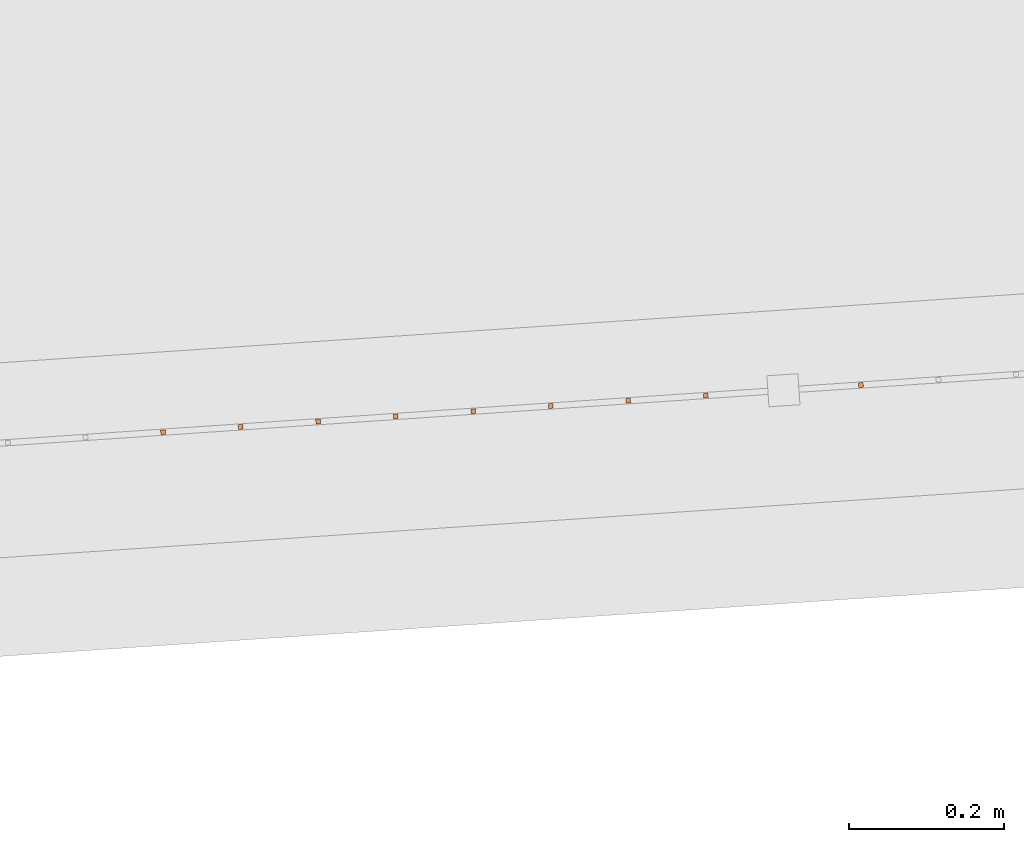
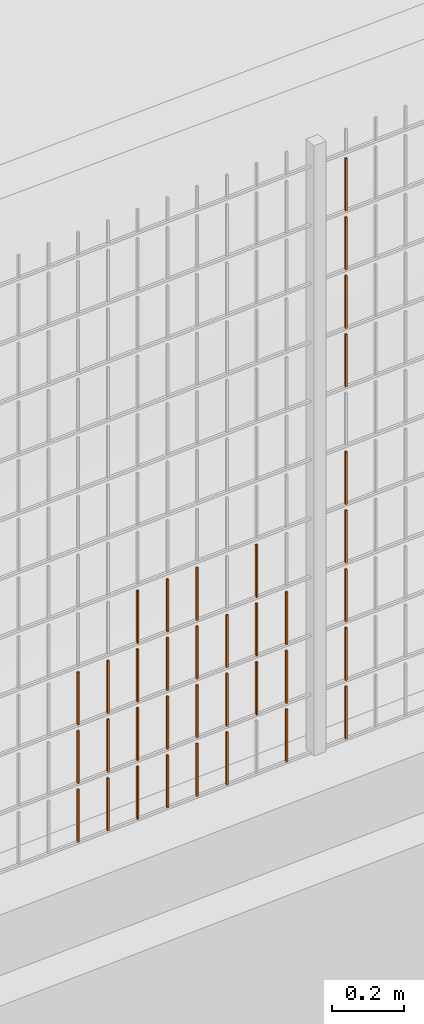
# One storey, part 377 of 1809: 36 proxies, 1 element without a shape of its own.
"""IFC2X3 building model written with IfcOpenShell, lengths in millimetres."""

from ifc_helpers import new_model, entity, si_unit, converted_unit, derived_unit, money_unit, direction, frame, origin_with_axes, place, context, subcontext, project, spatial, faceted_brep, source, transform, mapped, material, type_object, element, aggregate, save


model = new_model("IFC2X3")

# Units and contexts
model_context = context("Model", 3, precision=0.01, world=origin_with_axes(), true_north=direction((0.0, 1.0)))
body_context = subcontext(model_context, "Body", "Model", "MODEL_VIEW")
ifc_project = project(units=[si_unit("LENGTHUNIT", "METRE", prefix="MILLI"), si_unit("AREAUNIT", "SQUARE_METRE"), si_unit("VOLUMEUNIT", "CUBIC_METRE"), converted_unit("PLANEANGLEUNIT", "DEGREE", entity("IfcPlaneAngleMeasure", 0.0174532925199), si_unit("PLANEANGLEUNIT", "RADIAN"), dimensions=[0, 0, 0, 0, 0, 0, 0]), si_unit("SOLIDANGLEUNIT", "STERADIAN"), money_unit("EUR"), converted_unit("TIMEUNIT", "Year", entity("IfcTimeMeasure", 31556926.0), si_unit("TIMEUNIT", "SECOND"), dimensions=[0, 0, 1, 0, 0, 0, 0]), si_unit("MASSUNIT", "GRAM", prefix="KILO"), si_unit("THERMODYNAMICTEMPERATUREUNIT", "DEGREE_CELSIUS"), si_unit("LUMINOUSINTENSITYUNIT", "LUMEN"), si_unit("ENERGYUNIT", "JOULE", prefix="MEGA"), derived_unit("THERMALCONDUCTANCEUNIT", [(si_unit("POWERUNIT", "WATT"), 1), (si_unit("LENGTHUNIT", "METRE"), -1), (si_unit("THERMODYNAMICTEMPERATUREUNIT", "KELVIN"), -1)]), derived_unit("SPECIFICHEATCAPACITYUNIT", [(si_unit("ENERGYUNIT", "JOULE"), 1), (si_unit("MASSUNIT", "GRAM", prefix="KILO"), -1), (si_unit("THERMODYNAMICTEMPERATUREUNIT", "KELVIN"), -1)]), derived_unit("MASSDENSITYUNIT", [(si_unit("MASSUNIT", "GRAM", prefix="KILO"), 1), (si_unit("VOLUMEUNIT", "CUBIC_METRE"), -1)])], contexts=[model_context])

# Site, building, storey
site_placement = place(None, origin_with_axes())
site = spatial("IfcSite", under=ifc_project, at=site_placement, Name="Politse- ja Piirivalveameti ning Päästeameti ühishoone", CompositionType="ELEMENT")
building_placement = place(site_placement, origin_with_axes())
building = spatial("IfcBuilding", under=site, at=building_placement, Name="Politse- ja Piirivalveameti ning Päästeameti ühishoone", CompositionType="ELEMENT")
storey_placement = place(building_placement, origin_with_axes())
storey = spatial("IfcBuildingStorey", under=building, at=storey_placement, Name="Esimene korrus", CompositionType="ELEMENT", Elevation=0.0)

# Proxies
building_element_proxy_type_1 = type_object("IfcBuildingElementProxyType", Name="Railing Type", PredefinedType="NOTDEFINED")
proxy_1_placement = place(storey_placement, frame((89252.001212, -29183.4766571, 203.661247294), z_axis=(0.0, 0.0, 1.0), x_axis=(1.0, 0.0, 0.0)))
proxy_1 = element("IfcBuildingElementProxy", 1, at=proxy_1_placement, inside=storey, type_object=building_element_proxy_type_1, Name="PIIRDEAED")
ifc_material = material(Name="ET-03_Raud")
building_element_proxy_type_2 = type_object("IfcBuildingElementProxyType", Name="IfcBuildingElementProxy", PredefinedType="NOTDEFINED")
shared_shape_1 = source(origin_with_axes(), body_context, "Body", "Brep", [
    faceted_brep([(3.0, 3.0, -0.000752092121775), (-3.0, 3.0, -0.000752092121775), (-3.0, 3.0, 179.99926046), (3.0, 3.0, 179.99926046), (3.0, -3.0, 0.000752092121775), (-3.0, -3.0, 0.000752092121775), (-3.0, -3.0, 180.000764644), (3.0, -3.0, 180.000764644)], [[[0, 1, 2, 3]], [[0, 4, 5, 1]], [[1, 5, 6, 2]], [[3, 2, 6, 7]], [[4, 0, 3, 7]], [[5, 4, 7, 6]]]),
])
proxy_2_placement = place(proxy_1_placement, frame((-17786.1595333, -18499.1627155, 22.7652816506), z_axis=(0.0, 0.0, 1.0), x_axis=(1.0, 0.0, 0.0)))
proxy_2 = element("IfcBuildingElementProxy", 2, at=proxy_2_placement, type_object=building_element_proxy_type_2, material=ifc_material, Name="BALUSTER - 001", context=body_context, shape_type="MappedRepresentation", body=[
    mapped(shared_shape_1, transform((0.0, 0.0, 0.0), x_axis=(-0.0673926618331, 0.997726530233, 0.0), y_axis=(-0.997726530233, -0.0673926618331, 0.0), z_axis=(0.0, 0.0, 1.0))),
])
shared_shape_2 = source(origin_with_axes(), body_context, "Body", "Brep", [
    faceted_brep([(3.0, 3.0, -0.000752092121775), (-3.0, 3.0, -0.000752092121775), (-3.0, 3.0, 179.99926046), (3.0, 3.0, 179.99926046), (3.0, -3.0, 0.000752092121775), (-3.0, -3.0, 0.000752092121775), (-3.0, -3.0, 180.000764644), (3.0, -3.0, 180.000764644)], [[[0, 1, 2, 3]], [[0, 4, 5, 1]], [[1, 5, 6, 2]], [[3, 2, 6, 7]], [[4, 0, 3, 7]], [[5, 4, 7, 6]]]),
])
proxy_3_placement = place(proxy_1_placement, frame((-17586.6142273, -18485.6841832, 422.815421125), z_axis=(0.0, 0.0, 1.0), x_axis=(1.0, 0.0, 0.0)))
proxy_3 = element("IfcBuildingElementProxy", 3, at=proxy_3_placement, type_object=building_element_proxy_type_2, material=ifc_material, Name="BALUSTER - 001", context=body_context, shape_type="MappedRepresentation", body=[
    mapped(shared_shape_2, transform((0.0, 0.0, 0.0), x_axis=(-0.0673926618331, 0.997726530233, 0.0), y_axis=(-0.997726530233, -0.0673926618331, 0.0), z_axis=(0.0, 0.0, 1.0))),
])
proxy_4_placement = place(proxy_1_placement, frame((-17885.9321864, -18505.9019817, 422.740211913), z_axis=(0.0, 0.0, 1.0), x_axis=(1.0, 0.0, 0.0)))
proxy_4 = element("IfcBuildingElementProxy", 4, at=proxy_4_placement, type_object=building_element_proxy_type_2, material=ifc_material, Name="BALUSTER - 001", context=body_context, shape_type="MappedRepresentation", body=[
    mapped(shared_shape_2, transform((0.0, 0.0, 0.0), x_axis=(-0.0673926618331, 0.997726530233, 0.0), y_axis=(-0.997726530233, -0.0673926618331, 0.0), z_axis=(0.0, 0.0, 1.0))),
])
shared_shape_3 = source(origin_with_axes(), body_context, "Body", "Brep", [
    faceted_brep([(3.0, 3.0, -0.000752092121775), (-3.0, 3.0, -0.000752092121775), (-3.0, 3.0, 179.99926046), (3.0, 3.0, 179.99926046), (3.0, -3.0, 0.000752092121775), (-3.0, -3.0, 0.000752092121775), (-3.0, -3.0, 180.000764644), (3.0, -3.0, 180.000764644)], [[[0, 1, 2, 3]], [[0, 4, 5, 1]], [[1, 5, 6, 2]], [[3, 2, 6, 7]], [[4, 0, 3, 7]], [[5, 4, 7, 6]]]),
])
proxy_5_placement = place(proxy_1_placement, frame((-17786.1595333, -18499.1627155, 422.765281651), z_axis=(0.0, 0.0, 1.0), x_axis=(1.0, 0.0, 0.0)))
proxy_5 = element("IfcBuildingElementProxy", 5, at=proxy_5_placement, type_object=building_element_proxy_type_2, material=ifc_material, Name="BALUSTER - 001", context=body_context, shape_type="MappedRepresentation", body=[
    mapped(shared_shape_3, transform((0.0, 0.0, 0.0), x_axis=(-0.0673926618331, 0.997726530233, 0.0), y_axis=(-0.997726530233, -0.0673926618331, 0.0), z_axis=(0.0, 0.0, 1.0))),
])
shared_shape_4 = source(origin_with_axes(), body_context, "Body", "Brep", [
    faceted_brep([(3.0, 3.0, -0.000752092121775), (-3.0, 3.0, -0.000752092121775), (-3.0, 3.0, 179.99926046), (3.0, 3.0, 179.99926046), (3.0, -3.0, 0.000752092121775), (-3.0, -3.0, 0.000752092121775), (-3.0, -3.0, 180.000764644), (3.0, -3.0, 180.000764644)], [[[0, 1, 2, 3]], [[0, 4, 5, 1]], [[1, 5, 6, 2]], [[3, 2, 6, 7]], [[4, 0, 3, 7]], [[5, 4, 7, 6]]]),
])
proxy_6_placement = place(proxy_1_placement, frame((-17187.5236152, -18458.7271184, 422.915700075), z_axis=(0.0, 0.0, 1.0), x_axis=(1.0, 0.0, 0.0)))
proxy_6 = element("IfcBuildingElementProxy", 6, at=proxy_6_placement, type_object=building_element_proxy_type_2, material=ifc_material, Name="BALUSTER - 001", context=body_context, shape_type="MappedRepresentation", body=[
    mapped(shared_shape_4, transform((0.0, 0.0, 0.0), x_axis=(-0.0673926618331, 0.997726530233, 0.0), y_axis=(-0.997726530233, -0.0673926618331, 0.0), z_axis=(0.0, 0.0, 1.0))),
])
shared_shape_5 = source(origin_with_axes(), body_context, "Body", "Brep", [
    faceted_brep([(3.0, 3.0, -0.000752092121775), (-3.0, 3.0, -0.000752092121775), (-3.0, 3.0, 179.99926046), (3.0, 3.0, 179.99926046), (3.0, -3.0, 0.000752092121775), (-3.0, -3.0, 0.000752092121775), (-3.0, -3.0, 180.000764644), (3.0, -3.0, 180.000764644)], [[[0, 1, 2, 3]], [[0, 4, 5, 1]], [[1, 5, 6, 2]], [[3, 2, 6, 7]], [[4, 0, 3, 7]], [[5, 4, 7, 6]]]),
])
proxy_7_placement = place(proxy_1_placement, frame((-17686.3868803, -18492.4234494, 222.790351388), z_axis=(0.0, 0.0, 1.0), x_axis=(1.0, 0.0, 0.0)))
proxy_7 = element("IfcBuildingElementProxy", 7, at=proxy_7_placement, type_object=building_element_proxy_type_2, material=ifc_material, Name="BALUSTER - 001", context=body_context, shape_type="MappedRepresentation", body=[
    mapped(shared_shape_5, transform((0.0, 0.0, 0.0), x_axis=(-0.0673926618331, 0.997726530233, 0.0), y_axis=(-0.997726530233, -0.0673926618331, 0.0), z_axis=(0.0, 0.0, 1.0))),
])
proxy_8_placement = place(proxy_1_placement, frame((-17686.3868803, -18492.4234494, 422.790351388), z_axis=(0.0, 0.0, 1.0), x_axis=(1.0, 0.0, 0.0)))
proxy_8 = element("IfcBuildingElementProxy", 8, at=proxy_8_placement, type_object=building_element_proxy_type_2, material=ifc_material, Name="BALUSTER - 001", context=body_context, shape_type="MappedRepresentation", body=[
    mapped(shared_shape_5, transform((0.0, 0.0, 0.0), x_axis=(-0.0673926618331, 0.997726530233, 0.0), y_axis=(-0.997726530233, -0.0673926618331, 0.0), z_axis=(0.0, 0.0, 1.0))),
])
proxy_9_placement = place(proxy_1_placement, frame((-17985.7048394, -18512.6412479, 422.715142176), z_axis=(0.0, 0.0, 1.0), x_axis=(1.0, 0.0, 0.0)))
proxy_9 = element("IfcBuildingElementProxy", 9, at=proxy_9_placement, type_object=building_element_proxy_type_2, material=ifc_material, Name="BALUSTER - 001", context=body_context, shape_type="MappedRepresentation", body=[
    mapped(shared_shape_5, transform((0.0, 0.0, 0.0), x_axis=(-0.0673926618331, 0.997726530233, 0.0), y_axis=(-0.997726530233, -0.0673926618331, 0.0), z_axis=(0.0, 0.0, 1.0))),
])
proxy_10_placement = place(proxy_1_placement, frame((-17786.1595333, -18499.1627155, 622.765281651), z_axis=(0.0, 0.0, 1.0), x_axis=(1.0, 0.0, 0.0)))
proxy_10 = element("IfcBuildingElementProxy", 10, at=proxy_10_placement, type_object=building_element_proxy_type_2, material=ifc_material, Name="BALUSTER - 001", context=body_context, shape_type="MappedRepresentation", body=[
    mapped(shared_shape_5, transform((0.0, 0.0, 0.0), x_axis=(-0.0673926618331, 0.997726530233, 0.0), y_axis=(-0.997726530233, -0.0673926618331, 0.0), z_axis=(0.0, 0.0, 1.0))),
])
shared_shape_6 = source(origin_with_axes(), body_context, "Body", "Brep", [
    faceted_brep([(3.0, 3.0, -0.000752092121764), (-3.0, 3.0, -0.000752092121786), (-3.0, 3.0, 179.99926046), (3.0, 3.0, 179.99926046), (3.0, -3.0, 0.000752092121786), (-3.0, -3.0, 0.000752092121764), (-3.0, -3.0, 180.000764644), (3.0, -3.0, 180.000764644)], [[[0, 1, 2, 3]], [[0, 4, 5, 1]], [[1, 5, 6, 2]], [[3, 2, 6, 7]], [[4, 0, 3, 7]], [[5, 4, 7, 6]]]),
])
proxy_11_placement = place(proxy_1_placement, frame((-17387.0689212, -18472.2056508, 422.8655606), z_axis=(0.0, 0.0, 1.0), x_axis=(1.0, 0.0, 0.0)))
proxy_11 = element("IfcBuildingElementProxy", 11, at=proxy_11_placement, type_object=building_element_proxy_type_2, material=ifc_material, Name="BALUSTER - 001", context=body_context, shape_type="MappedRepresentation", body=[
    mapped(shared_shape_6, transform((0.0, 0.0, 0.0), x_axis=(-0.0673926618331, 0.997726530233, 0.0), y_axis=(-0.997726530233, -0.0673926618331, 0.0), z_axis=(0.0, 0.0, 1.0))),
])
shared_shape_7 = source(origin_with_axes(), body_context, "Body", "Brep", [
    faceted_brep([(3.0, 3.0, -0.000752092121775), (-3.0, 3.0, -0.000752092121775), (-3.0, 3.0, 179.99926046), (3.0, 3.0, 179.99926046), (3.0, -3.0, 0.000752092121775), (-3.0, -3.0, 0.000752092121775), (-3.0, -3.0, 180.000764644), (3.0, -3.0, 180.000764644)], [[[0, 1, 2, 3]], [[0, 4, 5, 1]], [[1, 5, 6, 2]], [[3, 2, 6, 7]], [[4, 0, 3, 7]], [[5, 4, 7, 6]]]),
])
proxy_12_placement = place(proxy_1_placement, frame((-17187.5236152, -18458.7271184, 622.915700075), z_axis=(0.0, 0.0, 1.0), x_axis=(1.0, 0.0, 0.0)))
proxy_12 = element("IfcBuildingElementProxy", 12, at=proxy_12_placement, type_object=building_element_proxy_type_2, material=ifc_material, Name="BALUSTER - 001", context=body_context, shape_type="MappedRepresentation", body=[
    mapped(shared_shape_7, transform((0.0, 0.0, 0.0), x_axis=(-0.0673926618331, 0.997726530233, 0.0), y_axis=(-0.997726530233, -0.0673926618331, 0.0), z_axis=(0.0, 0.0, 1.0))),
])
shared_shape_8 = source(origin_with_axes(), body_context, "Body", "Brep", [
    faceted_brep([(3.0, 3.0, -0.000752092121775), (-3.0, 3.0, -0.000752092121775), (-3.0, 3.0, 179.99926046), (3.0, 3.0, 179.99926046), (3.0, -3.0, 0.000752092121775), (-3.0, -3.0, 0.000752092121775), (-3.0, -3.0, 180.000764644), (3.0, -3.0, 180.000764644)], [[[0, 1, 2, 3]], [[0, 4, 5, 1]], [[1, 5, 6, 2]], [[3, 2, 6, 7]], [[4, 0, 3, 7]], [[5, 4, 7, 6]]]),
])
proxy_13_placement = place(proxy_1_placement, frame((-17885.9321864, -18505.9019817, 622.740211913), z_axis=(0.0, 0.0, 1.0), x_axis=(1.0, 0.0, 0.0)))
proxy_13 = element("IfcBuildingElementProxy", 13, at=proxy_13_placement, type_object=building_element_proxy_type_2, material=ifc_material, Name="BALUSTER - 001", context=body_context, shape_type="MappedRepresentation", body=[
    mapped(shared_shape_8, transform((0.0, 0.0, 0.0), x_axis=(-0.0673926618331, 0.997726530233, 0.0), y_axis=(-0.997726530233, -0.0673926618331, 0.0), z_axis=(0.0, 0.0, 1.0))),
])
shared_shape_9 = source(origin_with_axes(), body_context, "Body", "Brep", [
    faceted_brep([(3.0, 3.0, -0.000752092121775), (-3.0, 3.0, -0.000752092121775), (-3.0, 3.0, 179.99926046), (3.0, 3.0, 179.99926046), (3.0, -3.0, 0.000752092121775), (-3.0, -3.0, 0.000752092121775), (-3.0, -3.0, 180.000764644), (3.0, -3.0, 180.000764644)], [[[0, 1, 2, 3]], [[0, 4, 5, 1]], [[1, 5, 6, 2]], [[3, 2, 6, 7]], [[4, 0, 3, 7]], [[5, 4, 7, 6]]]),
])
proxy_14_placement = place(proxy_1_placement, frame((-17187.5236152, -18458.7271184, 822.915700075), z_axis=(0.0, 0.0, 1.0), x_axis=(1.0, 0.0, 0.0)))
proxy_14 = element("IfcBuildingElementProxy", 14, at=proxy_14_placement, type_object=building_element_proxy_type_2, material=ifc_material, Name="BALUSTER - 001", context=body_context, shape_type="MappedRepresentation", body=[
    mapped(shared_shape_9, transform((0.0, 0.0, 0.0), x_axis=(-0.0673926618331, 0.997726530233, 0.0), y_axis=(-0.997726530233, -0.0673926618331, 0.0), z_axis=(0.0, 0.0, 1.0))),
])
shared_shape_10 = source(origin_with_axes(), body_context, "Body", "Brep", [
    faceted_brep([(3.0, 3.0, -0.000752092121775), (-3.0, 3.0, -0.000752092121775), (-3.0, 3.0, 179.99926046), (3.0, 3.0, 179.99926046), (3.0, -3.0, 0.000752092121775), (-3.0, -3.0, 0.000752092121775), (-3.0, -3.0, 180.000764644), (3.0, -3.0, 180.000764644)], [[[0, 1, 2, 3]], [[0, 4, 5, 1]], [[1, 5, 6, 2]], [[3, 2, 6, 7]], [[4, 0, 3, 7]], [[5, 4, 7, 6]]]),
])
proxy_15_placement = place(proxy_1_placement, frame((-17686.3868803, -18492.4234494, 622.790351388), z_axis=(0.0, 0.0, 1.0), x_axis=(1.0, 0.0, 0.0)))
proxy_15 = element("IfcBuildingElementProxy", 15, at=proxy_15_placement, type_object=building_element_proxy_type_2, material=ifc_material, Name="BALUSTER - 001", context=body_context, shape_type="MappedRepresentation", body=[
    mapped(shared_shape_10, transform((0.0, 0.0, 0.0), x_axis=(-0.0673926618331, 0.997726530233, 0.0), y_axis=(-0.997726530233, -0.0673926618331, 0.0), z_axis=(0.0, 0.0, 1.0))),
])
shared_shape_11 = source(origin_with_axes(), body_context, "Body", "Brep", [
    faceted_brep([(3.0, 3.0, -0.000752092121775), (-3.0, 3.0, -0.000752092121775), (-3.0, 3.0, 179.99926046), (3.0, 3.0, 179.99926046), (3.0, -3.0, 0.000752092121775), (-3.0, -3.0, 0.000752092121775), (-3.0, -3.0, 180.000764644), (3.0, -3.0, 180.000764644)], [[[0, 1, 2, 3]], [[0, 4, 5, 1]], [[1, 5, 6, 2]], [[3, 2, 6, 7]], [[4, 0, 3, 7]], [[5, 4, 7, 6]]]),
])
proxy_16_placement = place(proxy_1_placement, frame((-17187.5236152, -18458.7271184, 22.915700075), z_axis=(0.0, 0.0, 1.0), x_axis=(1.0, 0.0, 0.0)))
proxy_16 = element("IfcBuildingElementProxy", 16, at=proxy_16_placement, type_object=building_element_proxy_type_2, material=ifc_material, Name="BALUSTER - 001", context=body_context, shape_type="MappedRepresentation", body=[
    mapped(shared_shape_11, transform((0.0, 0.0, 0.0), x_axis=(-0.0673926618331, 0.997726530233, 0.0), y_axis=(-0.997726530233, -0.0673926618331, 0.0), z_axis=(0.0, 0.0, 1.0))),
])
shared_shape_12 = source(origin_with_axes(), body_context, "Body", "Brep", [
    faceted_brep([(3.0, 3.0, -0.000752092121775), (-3.0, 3.0, -0.000752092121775), (-3.0, 3.0, 179.99926046), (3.0, 3.0, 179.99926046), (3.0, -3.0, 0.000752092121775), (-3.0, -3.0, 0.000752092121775), (-3.0, -3.0, 180.000764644), (3.0, -3.0, 180.000764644)], [[[0, 1, 2, 3]], [[0, 4, 5, 1]], [[1, 5, 6, 2]], [[3, 2, 6, 7]], [[4, 0, 3, 7]], [[5, 4, 7, 6]]]),
])
proxy_17_placement = place(proxy_1_placement, frame((-17686.3868803, -18492.4234494, 22.790351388), z_axis=(0.0, 0.0, 1.0), x_axis=(1.0, 0.0, 0.0)))
proxy_17 = element("IfcBuildingElementProxy", 17, at=proxy_17_placement, type_object=building_element_proxy_type_2, material=ifc_material, Name="BALUSTER - 001", context=body_context, shape_type="MappedRepresentation", body=[
    mapped(shared_shape_12, transform((0.0, 0.0, 0.0), x_axis=(-0.0673926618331, 0.997726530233, 0.0), y_axis=(-0.997726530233, -0.0673926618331, 0.0), z_axis=(0.0, 0.0, 1.0))),
])
proxy_18_placement = place(proxy_1_placement, frame((-17985.7048394, -18512.6412479, 22.7151421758), z_axis=(0.0, 0.0, 1.0), x_axis=(1.0, 0.0, 0.0)))
proxy_18 = element("IfcBuildingElementProxy", 18, at=proxy_18_placement, type_object=building_element_proxy_type_2, material=ifc_material, Name="BALUSTER - 001", context=body_context, shape_type="MappedRepresentation", body=[
    mapped(shared_shape_12, transform((0.0, 0.0, 0.0), x_axis=(-0.0673926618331, 0.997726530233, 0.0), y_axis=(-0.997726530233, -0.0673926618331, 0.0), z_axis=(0.0, 0.0, 1.0))),
])
proxy_19_placement = place(proxy_1_placement, frame((-17985.7048394, -18512.6412479, 222.715142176), z_axis=(0.0, 0.0, 1.0), x_axis=(1.0, 0.0, 0.0)))
proxy_19 = element("IfcBuildingElementProxy", 19, at=proxy_19_placement, type_object=building_element_proxy_type_2, material=ifc_material, Name="BALUSTER - 001", context=body_context, shape_type="MappedRepresentation", body=[
    mapped(shared_shape_12, transform((0.0, 0.0, 0.0), x_axis=(-0.0673926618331, 0.997726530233, 0.0), y_axis=(-0.997726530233, -0.0673926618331, 0.0), z_axis=(0.0, 0.0, 1.0))),
])
shared_shape_13 = source(origin_with_axes(), body_context, "Body", "Brep", [
    faceted_brep([(3.0, 3.0, -0.000752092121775), (-3.0, 3.0, -0.000752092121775), (-3.0, 3.0, 179.99926046), (3.0, 3.0, 179.99926046), (3.0, -3.0, 0.000752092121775), (-3.0, -3.0, 0.000752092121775), (-3.0, -3.0, 180.000764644), (3.0, -3.0, 180.000764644)], [[[0, 1, 2, 3]], [[0, 4, 5, 1]], [[1, 5, 6, 2]], [[3, 2, 6, 7]], [[4, 0, 3, 7]], [[5, 4, 7, 6]]]),
])
proxy_20_placement = place(proxy_1_placement, frame((-17586.6142273, -18485.6841832, 22.8154211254), z_axis=(0.0, 0.0, 1.0), x_axis=(1.0, 0.0, 0.0)))
proxy_20 = element("IfcBuildingElementProxy", 20, at=proxy_20_placement, type_object=building_element_proxy_type_2, material=ifc_material, Name="BALUSTER - 001", context=body_context, shape_type="MappedRepresentation", body=[
    mapped(shared_shape_13, transform((0.0, 0.0, 0.0), x_axis=(-0.0673926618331, 0.997726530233, 0.0), y_axis=(-0.997726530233, -0.0673926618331, 0.0), z_axis=(0.0, 0.0, 1.0))),
])
proxy_21_placement = place(proxy_1_placement, frame((-17885.9321864, -18505.9019817, 22.7402119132), z_axis=(0.0, 0.0, 1.0), x_axis=(1.0, 0.0, 0.0)))
proxy_21 = element("IfcBuildingElementProxy", 21, at=proxy_21_placement, type_object=building_element_proxy_type_2, material=ifc_material, Name="BALUSTER - 001", context=body_context, shape_type="MappedRepresentation", body=[
    mapped(shared_shape_13, transform((0.0, 0.0, 0.0), x_axis=(-0.0673926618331, 0.997726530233, 0.0), y_axis=(-0.997726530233, -0.0673926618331, 0.0), z_axis=(0.0, 0.0, 1.0))),
])
shared_shape_14 = source(origin_with_axes(), body_context, "Body", "Brep", [
    faceted_brep([(3.0, 3.0, -0.000752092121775), (-3.0, 3.0, -0.000752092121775), (-3.0, 3.0, 179.99926046), (3.0, 3.0, 179.99926046), (3.0, -3.0, 0.000752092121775), (-3.0, -3.0, 0.000752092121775), (-3.0, -3.0, 180.000764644), (3.0, -3.0, 180.000764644)], [[[0, 1, 2, 3]], [[0, 4, 5, 1]], [[1, 5, 6, 2]], [[3, 2, 6, 7]], [[4, 0, 3, 7]], [[5, 4, 7, 6]]]),
])
proxy_22_placement = place(proxy_1_placement, frame((-17586.6142273, -18485.6841832, 222.815421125), z_axis=(0.0, 0.0, 1.0), x_axis=(1.0, 0.0, 0.0)))
proxy_22 = element("IfcBuildingElementProxy", 22, at=proxy_22_placement, type_object=building_element_proxy_type_2, material=ifc_material, Name="BALUSTER - 001", context=body_context, shape_type="MappedRepresentation", body=[
    mapped(shared_shape_14, transform((0.0, 0.0, 0.0), x_axis=(-0.0673926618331, 0.997726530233, 0.0), y_axis=(-0.997726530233, -0.0673926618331, 0.0), z_axis=(0.0, 0.0, 1.0))),
])
shared_shape_15 = source(origin_with_axes(), body_context, "Body", "Brep", [
    faceted_brep([(3.0, 3.0, -0.000752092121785), (-3.0, 3.0, -0.000752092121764), (-3.0, 3.0, 179.99926046), (3.0, 3.0, 179.99926046), (3.0, -3.0, 0.000752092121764), (-3.0, -3.0, 0.000752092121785), (-3.0, -3.0, 180.000764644), (3.0, -3.0, 180.000764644)], [[[0, 1, 2, 3]], [[0, 4, 5, 1]], [[1, 5, 6, 2]], [[3, 2, 6, 7]], [[4, 0, 3, 7]], [[5, 4, 7, 6]]]),
])
proxy_23_placement = place(proxy_1_placement, frame((-17187.5236152, -18458.7271184, 1822.91570007), z_axis=(0.0, 0.0, 1.0), x_axis=(1.0, 0.0, 0.0)))
proxy_23 = element("IfcBuildingElementProxy", 23, at=proxy_23_placement, type_object=building_element_proxy_type_2, material=ifc_material, Name="BALUSTER - 001", context=body_context, shape_type="MappedRepresentation", body=[
    mapped(shared_shape_15, transform((0.0, 0.0, 0.0), x_axis=(-0.0673926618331, 0.997726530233, 0.0), y_axis=(-0.997726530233, -0.0673926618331, 0.0), z_axis=(0.0, 0.0, 1.0))),
])
shared_shape_16 = source(origin_with_axes(), body_context, "Body", "Brep", [
    faceted_brep([(3.0, 3.0, -0.000752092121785), (-3.0, 3.0, -0.000752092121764), (-3.0, 3.0, 179.99926046), (3.0, 3.0, 179.99926046), (3.0, -3.0, 0.000752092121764), (-3.0, -3.0, 0.000752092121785), (-3.0, -3.0, 180.000764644), (3.0, -3.0, 180.000764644)], [[[0, 1, 2, 3]], [[0, 4, 5, 1]], [[1, 5, 6, 2]], [[3, 2, 6, 7]], [[4, 0, 3, 7]], [[5, 4, 7, 6]]]),
])
proxy_24_placement = place(proxy_1_placement, frame((-17187.5236152, -18458.7271184, 1222.91570007), z_axis=(0.0, 0.0, 1.0), x_axis=(1.0, 0.0, 0.0)))
proxy_24 = element("IfcBuildingElementProxy", 24, at=proxy_24_placement, type_object=building_element_proxy_type_2, material=ifc_material, Name="BALUSTER - 001", context=body_context, shape_type="MappedRepresentation", body=[
    mapped(shared_shape_16, transform((0.0, 0.0, 0.0), x_axis=(-0.0673926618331, 0.997726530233, 0.0), y_axis=(-0.997726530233, -0.0673926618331, 0.0), z_axis=(0.0, 0.0, 1.0))),
])
shared_shape_17 = source(origin_with_axes(), body_context, "Body", "Brep", [
    faceted_brep([(3.0, 3.0, -0.000752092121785), (-3.0, 3.0, -0.000752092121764), (-3.0, 3.0, 179.99926046), (3.0, 3.0, 179.99926046), (3.0, -3.0, 0.000752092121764), (-3.0, -3.0, 0.000752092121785), (-3.0, -3.0, 180.000764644), (3.0, -3.0, 180.000764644)], [[[0, 1, 2, 3]], [[0, 4, 5, 1]], [[1, 5, 6, 2]], [[3, 2, 6, 7]], [[4, 0, 3, 7]], [[5, 4, 7, 6]]]),
])
proxy_25_placement = place(proxy_1_placement, frame((-17187.5236152, -18458.7271184, 1422.91570007), z_axis=(0.0, 0.0, 1.0), x_axis=(1.0, 0.0, 0.0)))
proxy_25 = element("IfcBuildingElementProxy", 25, at=proxy_25_placement, type_object=building_element_proxy_type_2, material=ifc_material, Name="BALUSTER - 001", context=body_context, shape_type="MappedRepresentation", body=[
    mapped(shared_shape_17, transform((0.0, 0.0, 0.0), x_axis=(-0.0673926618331, 0.997726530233, 0.0), y_axis=(-0.997726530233, -0.0673926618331, 0.0), z_axis=(0.0, 0.0, 1.0))),
])
proxy_26_placement = place(proxy_1_placement, frame((-17187.5236152, -18458.7271184, 1622.91570007), z_axis=(0.0, 0.0, 1.0), x_axis=(1.0, 0.0, 0.0)))
proxy_26 = element("IfcBuildingElementProxy", 26, at=proxy_26_placement, type_object=building_element_proxy_type_2, material=ifc_material, Name="BALUSTER - 001", context=body_context, shape_type="MappedRepresentation", body=[
    mapped(shared_shape_17, transform((0.0, 0.0, 0.0), x_axis=(-0.0673926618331, 0.997726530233, 0.0), y_axis=(-0.997726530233, -0.0673926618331, 0.0), z_axis=(0.0, 0.0, 1.0))),
])
shared_shape_18 = source(origin_with_axes(), body_context, "Body", "Brep", [
    faceted_brep([(3.0, 3.0, -0.000752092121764), (-3.0, 3.0, -0.000752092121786), (-3.0, 3.0, 179.99926046), (3.0, 3.0, 179.99926046), (3.0, -3.0, 0.000752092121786), (-3.0, -3.0, 0.000752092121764), (-3.0, -3.0, 180.000764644), (3.0, -3.0, 180.000764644)], [[[0, 1, 2, 3]], [[0, 4, 5, 1]], [[1, 5, 6, 2]], [[3, 2, 6, 7]], [[4, 0, 3, 7]], [[5, 4, 7, 6]]]),
])
proxy_27_placement = place(proxy_1_placement, frame((-17387.0689212, -18472.2056508, 22.8655606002), z_axis=(0.0, 0.0, 1.0), x_axis=(1.0, 0.0, 0.0)))
proxy_27 = element("IfcBuildingElementProxy", 27, at=proxy_27_placement, type_object=building_element_proxy_type_2, material=ifc_material, Name="BALUSTER - 001", context=body_context, shape_type="MappedRepresentation", body=[
    mapped(shared_shape_18, transform((0.0, 0.0, 0.0), x_axis=(-0.0673926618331, 0.997726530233, 0.0), y_axis=(-0.997726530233, -0.0673926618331, 0.0), z_axis=(0.0, 0.0, 1.0))),
])
proxy_28_placement = place(proxy_1_placement, frame((-17387.0689212, -18472.2056508, 222.8655606), z_axis=(0.0, 0.0, 1.0), x_axis=(1.0, 0.0, 0.0)))
proxy_28 = element("IfcBuildingElementProxy", 28, at=proxy_28_placement, type_object=building_element_proxy_type_2, material=ifc_material, Name="BALUSTER - 001", context=body_context, shape_type="MappedRepresentation", body=[
    mapped(shared_shape_18, transform((0.0, 0.0, 0.0), x_axis=(-0.0673926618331, 0.997726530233, 0.0), y_axis=(-0.997726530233, -0.0673926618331, 0.0), z_axis=(0.0, 0.0, 1.0))),
])
shared_shape_19 = source(origin_with_axes(), body_context, "Body", "Brep", [
    faceted_brep([(3.0, 3.0, -0.000752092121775), (-3.0, 3.0, -0.000752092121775), (-3.0, 3.0, 179.99926046), (3.0, 3.0, 179.99926046), (3.0, -3.0, 0.000752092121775), (-3.0, -3.0, 0.000752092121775), (-3.0, -3.0, 180.000764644), (3.0, -3.0, 180.000764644)], [[[0, 1, 2, 3]], [[0, 4, 5, 1]], [[1, 5, 6, 2]], [[3, 2, 6, 7]], [[4, 0, 3, 7]], [[5, 4, 7, 6]]]),
])
proxy_29_placement = place(proxy_1_placement, frame((-17187.5236152, -18458.7271184, 222.915700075), z_axis=(0.0, 0.0, 1.0), x_axis=(1.0, 0.0, 0.0)))
proxy_29 = element("IfcBuildingElementProxy", 29, at=proxy_29_placement, type_object=building_element_proxy_type_2, material=ifc_material, Name="BALUSTER - 001", context=body_context, shape_type="MappedRepresentation", body=[
    mapped(shared_shape_19, transform((0.0, 0.0, 0.0), x_axis=(-0.0673926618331, 0.997726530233, 0.0), y_axis=(-0.997726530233, -0.0673926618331, 0.0), z_axis=(0.0, 0.0, 1.0))),
])
shared_shape_20 = source(origin_with_axes(), body_context, "Body", "Brep", [
    faceted_brep([(3.0, 3.0, -0.000752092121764), (-3.0, 3.0, -0.000752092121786), (-3.0, 3.0, 179.99926046), (3.0, 3.0, 179.99926046), (3.0, -3.0, 0.000752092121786), (-3.0, -3.0, 0.000752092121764), (-3.0, -3.0, 180.000764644), (3.0, -3.0, 180.000764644)], [[[0, 1, 2, 3]], [[0, 4, 5, 1]], [[1, 5, 6, 2]], [[3, 2, 6, 7]], [[4, 0, 3, 7]], [[5, 4, 7, 6]]]),
])
proxy_30_placement = place(proxy_1_placement, frame((-18085.4774924, -18519.3805141, 22.6900724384), z_axis=(0.0, 0.0, 1.0), x_axis=(1.0, 0.0, 0.0)))
proxy_30 = element("IfcBuildingElementProxy", 30, at=proxy_30_placement, type_object=building_element_proxy_type_2, material=ifc_material, Name="BALUSTER - 001", context=body_context, shape_type="MappedRepresentation", body=[
    mapped(shared_shape_20, transform((0.0, 0.0, 0.0), x_axis=(-0.0673926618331, 0.997726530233, 0.0), y_axis=(-0.997726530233, -0.0673926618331, 0.0), z_axis=(0.0, 0.0, 1.0))),
])
proxy_31_placement = place(proxy_1_placement, frame((-18085.4774924, -18519.3805141, 222.690072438), z_axis=(0.0, 0.0, 1.0), x_axis=(1.0, 0.0, 0.0)))
proxy_31 = element("IfcBuildingElementProxy", 31, at=proxy_31_placement, type_object=building_element_proxy_type_2, material=ifc_material, Name="BALUSTER - 001", context=body_context, shape_type="MappedRepresentation", body=[
    mapped(shared_shape_20, transform((0.0, 0.0, 0.0), x_axis=(-0.0673926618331, 0.997726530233, 0.0), y_axis=(-0.997726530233, -0.0673926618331, 0.0), z_axis=(0.0, 0.0, 1.0))),
])
shared_shape_21 = source(origin_with_axes(), body_context, "Body", "Brep", [
    faceted_brep([(3.0, 3.0, -0.000752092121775), (-3.0, 3.0, -0.000752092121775), (-3.0, 3.0, 179.99926046), (3.0, 3.0, 179.99926046), (3.0, -3.0, 0.000752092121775), (-3.0, -3.0, 0.000752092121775), (-3.0, -3.0, 180.000764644), (3.0, -3.0, 180.000764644)], [[[0, 1, 2, 3]], [[0, 4, 5, 1]], [[1, 5, 6, 2]], [[3, 2, 6, 7]], [[4, 0, 3, 7]], [[5, 4, 7, 6]]]),
])
proxy_32_placement = place(proxy_1_placement, frame((-17786.1595333, -18499.1627155, 222.765281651), z_axis=(0.0, 0.0, 1.0), x_axis=(1.0, 0.0, 0.0)))
proxy_32 = element("IfcBuildingElementProxy", 32, at=proxy_32_placement, type_object=building_element_proxy_type_2, material=ifc_material, Name="BALUSTER - 001", context=body_context, shape_type="MappedRepresentation", body=[
    mapped(shared_shape_21, transform((0.0, 0.0, 0.0), x_axis=(-0.0673926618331, 0.997726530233, 0.0), y_axis=(-0.997726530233, -0.0673926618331, 0.0), z_axis=(0.0, 0.0, 1.0))),
])
shared_shape_22 = source(origin_with_axes(), body_context, "Body", "Brep", [
    faceted_brep([(3.0, 3.0, -0.000752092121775), (-3.0, 3.0, -0.000752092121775), (-3.0, 3.0, 179.99926046), (3.0, 3.0, 179.99926046), (3.0, -3.0, 0.000752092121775), (-3.0, -3.0, 0.000752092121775), (-3.0, -3.0, 180.000764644), (3.0, -3.0, 180.000764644)], [[[0, 1, 2, 3]], [[0, 4, 5, 1]], [[1, 5, 6, 2]], [[3, 2, 6, 7]], [[4, 0, 3, 7]], [[5, 4, 7, 6]]]),
])
proxy_33_placement = place(proxy_1_placement, frame((-17486.8415743, -18478.944917, 222.840490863), z_axis=(0.0, 0.0, 1.0), x_axis=(1.0, 0.0, 0.0)))
proxy_33 = element("IfcBuildingElementProxy", 33, at=proxy_33_placement, type_object=building_element_proxy_type_2, material=ifc_material, Name="BALUSTER - 001", context=body_context, shape_type="MappedRepresentation", body=[
    mapped(shared_shape_22, transform((0.0, 0.0, 0.0), x_axis=(-0.0673926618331, 0.997726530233, 0.0), y_axis=(-0.997726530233, -0.0673926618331, 0.0), z_axis=(0.0, 0.0, 1.0))),
])
proxy_34_placement = place(proxy_1_placement, frame((-17486.8415743, -18478.944917, 422.840490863), z_axis=(0.0, 0.0, 1.0), x_axis=(1.0, 0.0, 0.0)))
proxy_34 = element("IfcBuildingElementProxy", 34, at=proxy_34_placement, type_object=building_element_proxy_type_2, material=ifc_material, Name="BALUSTER - 001", context=body_context, shape_type="MappedRepresentation", body=[
    mapped(shared_shape_22, transform((0.0, 0.0, 0.0), x_axis=(-0.0673926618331, 0.997726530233, 0.0), y_axis=(-0.997726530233, -0.0673926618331, 0.0), z_axis=(0.0, 0.0, 1.0))),
])
shared_shape_23 = source(origin_with_axes(), body_context, "Body", "Brep", [
    faceted_brep([(3.0, 3.0, -0.000752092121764), (-3.0, 3.0, -0.000752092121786), (-3.0, 3.0, 179.99926046), (3.0, 3.0, 179.99926046), (3.0, -3.0, 0.000752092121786), (-3.0, -3.0, 0.000752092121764), (-3.0, -3.0, 180.000764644), (3.0, -3.0, 180.000764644)], [[[0, 1, 2, 3]], [[0, 4, 5, 1]], [[1, 5, 6, 2]], [[3, 2, 6, 7]], [[4, 0, 3, 7]], [[5, 4, 7, 6]]]),
])
proxy_35_placement = place(proxy_1_placement, frame((-18085.4774924, -18519.3805141, 422.690072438), z_axis=(0.0, 0.0, 1.0), x_axis=(1.0, 0.0, 0.0)))
proxy_35 = element("IfcBuildingElementProxy", 35, at=proxy_35_placement, type_object=building_element_proxy_type_2, material=ifc_material, Name="BALUSTER - 001", context=body_context, shape_type="MappedRepresentation", body=[
    mapped(shared_shape_23, transform((0.0, 0.0, 0.0), x_axis=(-0.0673926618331, 0.997726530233, 0.0), y_axis=(-0.997726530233, -0.0673926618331, 0.0), z_axis=(0.0, 0.0, 1.0))),
])
shared_shape_24 = source(origin_with_axes(), body_context, "Body", "Brep", [
    faceted_brep([(3.0, 3.0, -0.000752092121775), (-3.0, 3.0, -0.000752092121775), (-3.0, 3.0, 179.99926046), (3.0, 3.0, 179.99926046), (3.0, -3.0, 0.000752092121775), (-3.0, -3.0, 0.000752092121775), (-3.0, -3.0, 180.000764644), (3.0, -3.0, 180.000764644)], [[[0, 1, 2, 3]], [[0, 4, 5, 1]], [[1, 5, 6, 2]], [[3, 2, 6, 7]], [[4, 0, 3, 7]], [[5, 4, 7, 6]]]),
])
proxy_36_placement = place(proxy_1_placement, frame((-17486.8415743, -18478.944917, 622.840490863), z_axis=(0.0, 0.0, 1.0), x_axis=(1.0, 0.0, 0.0)))
proxy_36 = element("IfcBuildingElementProxy", 36, at=proxy_36_placement, type_object=building_element_proxy_type_2, material=ifc_material, Name="BALUSTER - 001", context=body_context, shape_type="MappedRepresentation", body=[
    mapped(shared_shape_24, transform((0.0, 0.0, 0.0), x_axis=(-0.0673926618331, 0.997726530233, 0.0), y_axis=(-0.997726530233, -0.0673926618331, 0.0), z_axis=(0.0, 0.0, 1.0))),
])
shared_shape_25 = source(origin_with_axes(), body_context, "Body", "Brep", [
    faceted_brep([(3.0, 3.0, -0.000752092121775), (-3.0, 3.0, -0.000752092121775), (-3.0, 3.0, 179.99926046), (3.0, 3.0, 179.99926046), (3.0, -3.0, 0.000752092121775), (-3.0, -3.0, 0.000752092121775), (-3.0, -3.0, 180.000764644), (3.0, -3.0, 180.000764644)], [[[0, 1, 2, 3]], [[0, 4, 5, 1]], [[1, 5, 6, 2]], [[3, 2, 6, 7]], [[4, 0, 3, 7]], [[5, 4, 7, 6]]]),
])
proxy_37_placement = place(proxy_1_placement, frame((-17885.9321864, -18505.9019817, 222.740211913), z_axis=(0.0, 0.0, 1.0), x_axis=(1.0, 0.0, 0.0)))
proxy_37 = element("IfcBuildingElementProxy", 37, at=proxy_37_placement, type_object=building_element_proxy_type_2, material=ifc_material, Name="BALUSTER - 001", context=body_context, shape_type="MappedRepresentation", body=[
    mapped(shared_shape_25, transform((0.0, 0.0, 0.0), x_axis=(-0.0673926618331, 0.997726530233, 0.0), y_axis=(-0.997726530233, -0.0673926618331, 0.0), z_axis=(0.0, 0.0, 1.0))),
])
aggregate(proxy_1, [proxy_16, proxy_29, proxy_6, proxy_12, proxy_14, proxy_24, proxy_25, proxy_26, proxy_23, proxy_27, proxy_20, proxy_17, proxy_2, proxy_21, proxy_18, proxy_30, proxy_28, proxy_33, proxy_22, proxy_7, proxy_32, proxy_37, proxy_19, proxy_31, proxy_11, proxy_34, proxy_3, proxy_8, proxy_5, proxy_4, proxy_9, proxy_35, proxy_36, proxy_15, proxy_10, proxy_13])

save(model, "model.ifc")
